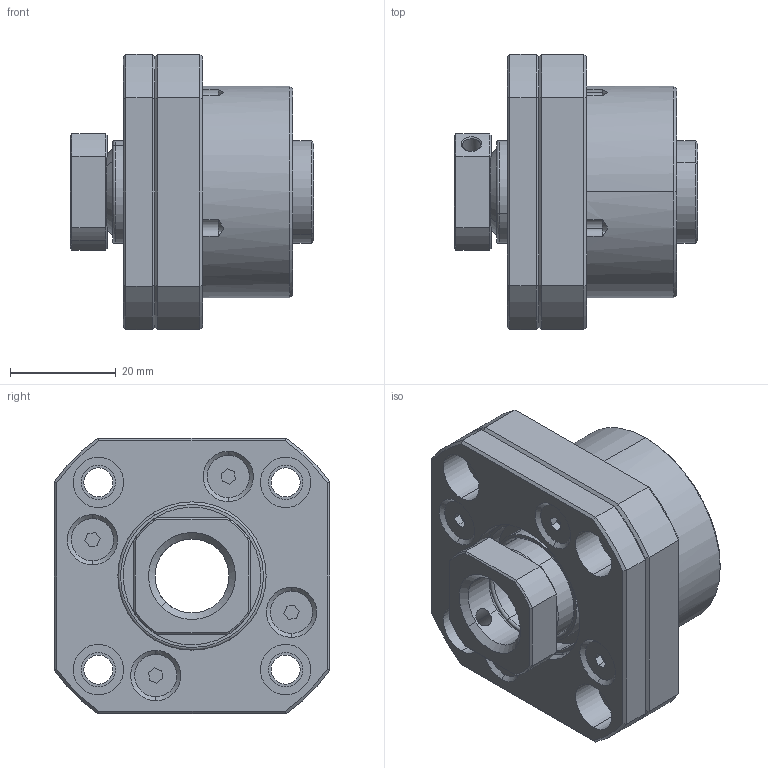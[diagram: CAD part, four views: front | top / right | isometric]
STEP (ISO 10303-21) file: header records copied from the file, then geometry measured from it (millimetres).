
FILE_DESCRIPTION (( 'STEP AP203' ), '1' );
FILE_NAME ('FK15²Õ¦XA.STEP', '2021-09-29T01:25:24', ( '' ), ( '' ), 'SwSTEP 2.0', 'SolidWorks 2018', '' );
FILE_SCHEMA (( 'CONFIG_CONTROL_DESIGN' ));
Length unit declared in the file: millimetre
Products named in the file (1): FK15組合A
Bounding box: 46 x 52 x 52 mm (x, y, z)
Surface area: 19218.5 mm2 (no closed solid volume)
Topology: 0 solids, 16 shells, 218 faces, 573 edges, 371 vertices
Faces by surface type: plane 81, cylinder 71, cone 46, torus 16, bspline 4
Entity records: 7273 total; most frequent: CARTESIAN_POINT 1783, DIRECTION 1198, ORIENTED_EDGE 1013, EDGE_CURVE 573, AXIS2_PLACEMENT_3D 484, VERTEX_POINT 371, CIRCLE 269, EDGE_LOOP 258
